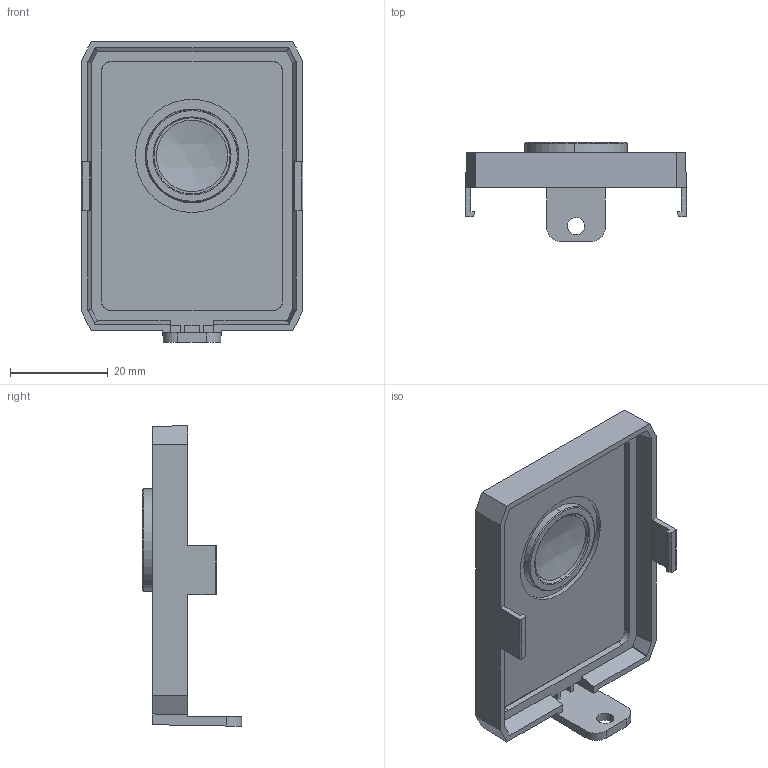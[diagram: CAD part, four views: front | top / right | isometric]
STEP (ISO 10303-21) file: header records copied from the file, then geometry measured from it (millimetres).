
FILE_DESCRIPTION((''),'2;1');
FILE_NAME('DE-12-003598_72','2023-11-10T11:12:07',('qinyangfan'),(''),'CREO PARAMETRIC BY PTC INC, 2020044','CREO PARAMETRIC BY PTC INC, 2020044','');
FILE_SCHEMA(('CONFIG_CONTROL_DESIGN'));
Length unit declared in the file: millimetre
Products named in the file (1): DE-12-003598_72
Bounding box: 45.4 x 20.35 x 61.6 mm (x, y, z)
Volume: 8421.1 mm3; surface area: 9182.5 mm2
Topology: 1 solids, 1 shells, 122 faces, 324 edges, 214 vertices
Faces by surface type: plane 67, cylinder 30, cone 18, torus 4, sphere 3
Entity records: 3923 total; most frequent: CARTESIAN_POINT 805, ORIENTED_EDGE 648, DIRECTION 626, EDGE_CURVE 324, VECTOR 222, LINE 222, VERTEX_POINT 214, AXIS2_PLACEMENT_3D 202
